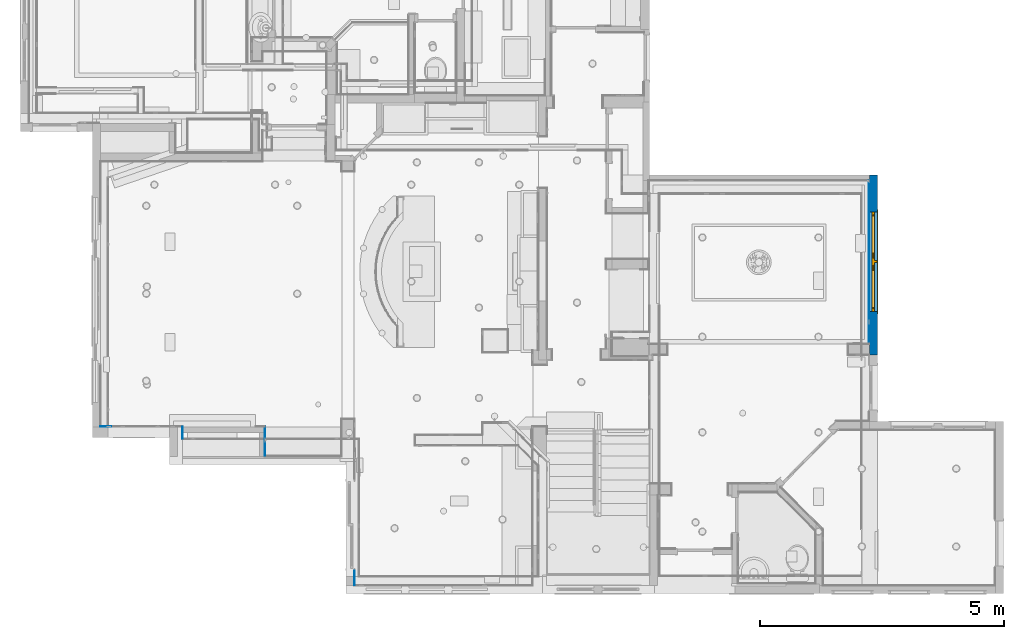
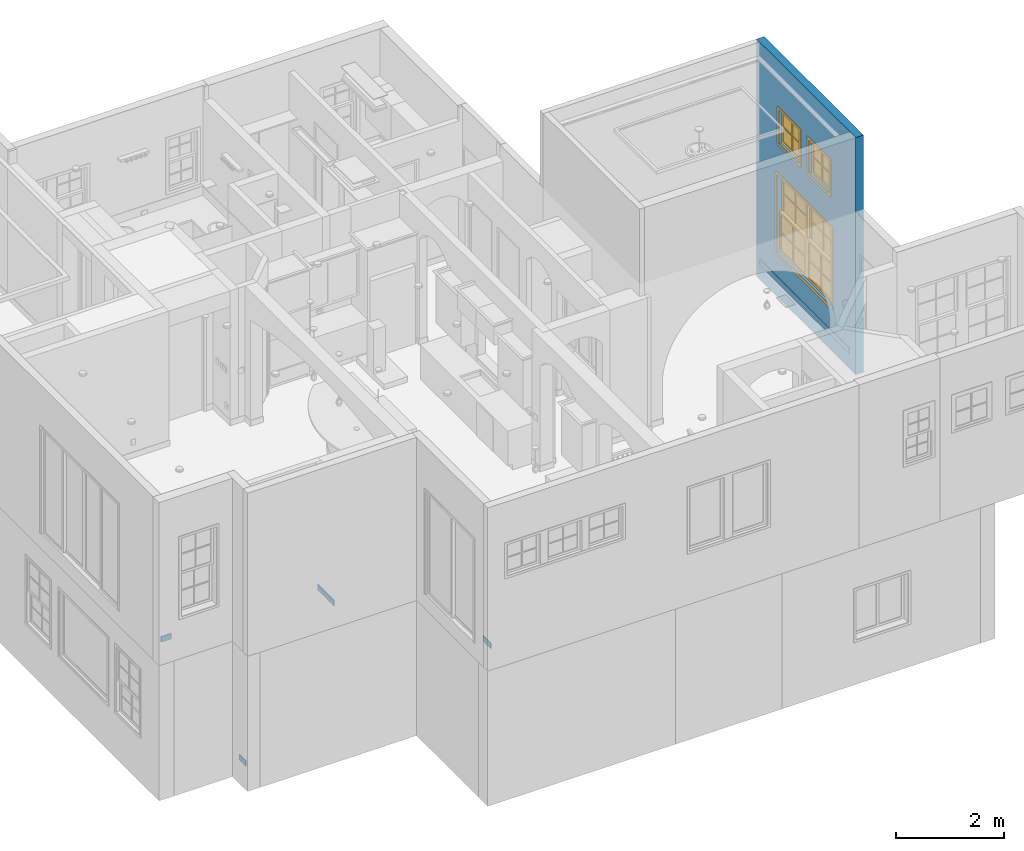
# One storey, part 16 of 81: 6 walls, 3 windows, 3 openings.
"""IFC2X3 building model written with IfcOpenShell, lengths in feet."""

from ifc_helpers import new_model, entity, si_unit, converted_unit, derived_unit, direction, frame, frame_2d, origin, origin_2d_with_axis, place, context, subcontext, project, spatial, polyline, rectangle, outline, extrude, clip, bounded_halfspace, source, transform, mapped, material, material_list, layer, layer_set, layer_usage, type_object, type_shapes, element, fill, save


model = new_model("IFC2X3")

# Units and contexts
model_context = context("Model", 3, precision=0.0001, world=origin(), true_north=direction((6.12303176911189e-17, 1.0)))
body_context = subcontext(model_context, "Body", "Model", "MODEL_VIEW")
ifc_project = project(units=[converted_unit("LENGTHUNIT", "FOOT", entity("IfcRatioMeasure", 0.3048), si_unit("LENGTHUNIT", "METRE"), dimensions=[1, 0, 0, 0, 0, 0, 0]), converted_unit("AREAUNIT", "SQUARE FOOT", entity("IfcRatioMeasure", 0.09290304), si_unit("AREAUNIT", "SQUARE_METRE"), dimensions=[2, 0, 0, 0, 0, 0, 0]), converted_unit("VOLUMEUNIT", "CUBIC FOOT", entity("IfcRatioMeasure", 0.028316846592), si_unit("VOLUMEUNIT", "CUBIC_METRE"), dimensions=[3, 0, 0, 0, 0, 0, 0]), converted_unit("PLANEANGLEUNIT", "DEGREE", entity("IfcRatioMeasure", 0.0174532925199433), si_unit("PLANEANGLEUNIT", "RADIAN"), dimensions=[0, 0, 0, 0, 0, 0, 0]), si_unit("MASSUNIT", "GRAM", prefix="KILO"), derived_unit("MASSDENSITYUNIT", [(si_unit("MASSUNIT", "GRAM", prefix="KILO"), 1), (si_unit("LENGTHUNIT", "METRE"), -3)]), derived_unit("MOMENTOFINERTIAUNIT", [(si_unit("LENGTHUNIT", "METRE"), 4)]), si_unit("TIMEUNIT", "SECOND"), si_unit("FREQUENCYUNIT", "HERTZ"), si_unit("THERMODYNAMICTEMPERATUREUNIT", "DEGREE_CELSIUS"), derived_unit("THERMALTRANSMITTANCEUNIT", [(si_unit("MASSUNIT", "GRAM", prefix="KILO"), 1), (si_unit("THERMODYNAMICTEMPERATUREUNIT", "KELVIN"), -1), (si_unit("TIMEUNIT", "SECOND"), -3)]), derived_unit("VOLUMETRICFLOWRATEUNIT", [(si_unit("LENGTHUNIT", "METRE"), 3), (si_unit("TIMEUNIT", "SECOND"), -1)]), si_unit("ELECTRICCURRENTUNIT", "AMPERE"), si_unit("ELECTRICVOLTAGEUNIT", "VOLT"), si_unit("POWERUNIT", "WATT"), si_unit("FORCEUNIT", "NEWTON"), si_unit("ILLUMINANCEUNIT", "LUX"), si_unit("LUMINOUSFLUXUNIT", "LUMEN"), si_unit("LUMINOUSINTENSITYUNIT", "CANDELA"), derived_unit("USERDEFINED", [(si_unit("MASSUNIT", "GRAM", prefix="KILO"), -1), (si_unit("LENGTHUNIT", "METRE"), -2), (si_unit("TIMEUNIT", "SECOND"), 3), (si_unit("LUMINOUSFLUXUNIT", "LUMEN"), 1)]), derived_unit("LINEARVELOCITYUNIT", [(si_unit("LENGTHUNIT", "METRE"), 1), (si_unit("TIMEUNIT", "SECOND"), -1)]), si_unit("PRESSUREUNIT", "PASCAL"), derived_unit("USERDEFINED", [(si_unit("LENGTHUNIT", "METRE"), -2), (si_unit("MASSUNIT", "GRAM", prefix="KILO"), 1), (si_unit("TIMEUNIT", "SECOND"), -2)]), derived_unit("LINEARFORCEUNIT", [(si_unit("MASSUNIT", "GRAM", prefix="KILO"), 1), (si_unit("LENGTHUNIT", "METRE"), 1), (si_unit("TIMEUNIT", "SECOND"), -2), (si_unit("LENGTHUNIT", "METRE"), -1)]), derived_unit("PLANARFORCEUNIT", [(si_unit("MASSUNIT", "GRAM", prefix="KILO"), 1), (si_unit("LENGTHUNIT", "METRE"), 1), (si_unit("TIMEUNIT", "SECOND"), -2), (si_unit("LENGTHUNIT", "METRE"), -2)])], contexts=[model_context])

# Site, building, storey
site_placement = place(None, origin())
site = spatial("IfcSite", under=ifc_project, at=site_placement, Name="Default", CompositionType="ELEMENT")
building_placement = place(site_placement, origin())
building = spatial("IfcBuilding", under=site, at=building_placement, CompositionType="ELEMENT")
storey_placement = place(building_placement, origin())
storey = spatial("IfcBuildingStorey", under=building, at=storey_placement, Name="First floor", CompositionType="ELEMENT", Elevation=0.0)

# Wall, openings, windows
ifc_material_1 = material(Name="Default New Material")
ifc_layer_1 = layer(ifc_material_1, 0.541666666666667)
ifc_layer_set_1 = layer_set([ifc_layer_1], Name="Basic Wall:Wall_6.5\"")
ifc_layer_usage_1 = layer_usage(ifc_layer_set_1, "AXIS2", "POSITIVE", -0.270833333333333)
wall_type_1 = type_object("IfcWallType", Name="Basic Wall:Wall_6.5\"", PredefinedType="STANDARD", material=ifc_layer_set_1)
wall_1_placement = place(storey_placement, frame((35.3958333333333, 16.041667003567, 9.54166666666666), z_axis=(0.0, 0.0, 1.0), x_axis=(0.0, 1.0, 0.0)))
wall_1 = element("IfcWallStandardCase", 1, at=wall_1_placement, inside=storey, type_object=wall_type_1, material=ifc_layer_usage_1, Name="Basic Wall:Wall_6.5\"", ObjectType="Basic Wall:Wall_6.5\"", context=body_context, shape_type="SweptSolid", body=[
    extrude(rectangle(XDim=12.083332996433, YDim=0.541666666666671, at=frame_2d((6.04166649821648, 1.66533453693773e-16), x_axis=(-1.0, 0.0))), origin(), (0.0, 0.0, 1.0), 17.625),
])
opening_1_placement = place(wall_1_placement, frame((9.58337356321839, 0.270833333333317, 3.29166666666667)))
opening_1 = element("IfcOpeningElement", 2, at=opening_1_placement, cuts=wall_1, Name="Window_13:6'-8\" X 5'-10\":1", ObjectType="Opening", context=body_context, shape_type="SweptSolid", body=[
    extrude(rectangle(XDim=5.83333333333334, YDim=6.66666666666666, at=frame_2d((2.91666666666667, 3.33333333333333), x_axis=(-1.0, 0.0))), frame((0.0, 0.0, 0.0), z_axis=(0.0, -1.0, 0.0), x_axis=(0.0, 0.0, 1.0)), (0.0, 0.0, 1.0), 0.541666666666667),
])
opening_2_placement = place(wall_1_placement, frame((6.83005215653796, -0.27083333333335, 11.5416666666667)))
opening_2 = element("IfcOpeningElement", 3, at=opening_2_placement, cuts=wall_1, Name="Window_8:2'-6\" X 2'-6\":1", ObjectType="Opening", context=body_context, shape_type="SweptSolid", body=[
    extrude(rectangle(XDim=2.5, YDim=2.5, at=frame_2d((1.25, 1.25), x_axis=(-1.0, 0.0))), frame((0.0, 0.0, 0.0), z_axis=(0.0, 1.0, 0.0), x_axis=(0.0, 0.0, 1.0)), (0.0, 0.0, 1.0), 0.541666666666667),
])
opening_3_placement = place(wall_1_placement, frame((3.16666666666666, -0.270833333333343, 11.5416666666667)))
opening_3 = element("IfcOpeningElement", 4, at=opening_3_placement, cuts=wall_1, Name="Window_8:2'-6\" X 2'-6\":1", ObjectType="Opening", context=body_context, shape_type="SweptSolid", body=[
    extrude(rectangle(XDim=2.5, YDim=2.5, at=frame_2d((1.25, 1.25), x_axis=(-1.0, 0.0))), frame((0.0, 0.0, 0.0), z_axis=(0.0, 1.0, 0.0), x_axis=(0.0, 0.0, 1.0)), (0.0, 0.0, 1.0), 0.541666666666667),
])
ifc_material_2 = material(Name="Glass")
ifc_material_list_1 = material_list([ifc_material_2, ifc_material_1])
ifc_material_3 = material(Name="Sash")
ifc_material_list_2 = material_list([ifc_material_1, ifc_material_1, ifc_material_3, ifc_material_2])
window_style_1 = type_object("IfcWindowStyle", Name="Window_13:6'-8\" X 5'-10\"", ConstructionType="NOTDEFINED", OperationType="NOTDEFINED", ParameterTakesPrecedence=False, Sizeable=False, material=ifc_material_list_2)
shared_shape_1 = source(origin(), body_context, "Body", "SweptSolid", [
    extrude(rectangle(XDim=1.44791666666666, YDim=0.0435871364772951, at=origin_2d_with_axis()), frame((5.77604166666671, 0.417626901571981, 4.35937499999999)), (0.0, 0.0, 1.0), 1.30729166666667),
    extrude(rectangle(XDim=1.44791666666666, YDim=0.0435871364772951, at=frame_2d((-1.11022302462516e-16, 0.0), x_axis=(1.0, 0.0))), frame((0.890625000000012, 0.417626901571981, 4.359375)), (0.0, 0.0, 1.0), 1.30729166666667),
    extrude(rectangle(XDim=1.44791666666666, YDim=0.0435871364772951, at=frame_2d((1.11022302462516e-16, 0.0), x_axis=(1.0, 0.0))), frame((2.38020833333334, 0.417626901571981, 4.35937499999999)), (0.0, 0.0, 1.0), 1.30729166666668),
    extrude(rectangle(XDim=1.44791666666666, YDim=0.0435871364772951, at=origin_2d_with_axis()), frame((4.28645833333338, 0.417626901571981, 4.35937499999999)), (0.0, 0.0, 1.0), 1.30729166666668),
    extrude(rectangle(XDim=1.44791666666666, YDim=0.0435871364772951, at=origin_2d_with_axis()), frame((5.7760416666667, 0.417626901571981, 3.01041666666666)), (0.0, 0.0, 1.0), 1.30729166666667),
    extrude(rectangle(XDim=1.44791666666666, YDim=0.0435871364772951, at=frame_2d((1.11022302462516e-16, 0.0), x_axis=(1.0, 0.0))), frame((0.89062500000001, 0.417626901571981, 3.01041666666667)), (0.0, 0.0, 1.0), 1.30729166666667),
    extrude(rectangle(XDim=1.44791666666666, YDim=0.0435871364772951, at=frame_2d((-1.11022302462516e-16, 0.0), x_axis=(1.0, 0.0))), frame((2.38020833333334, 0.417626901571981, 3.01041666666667)), (0.0, 0.0, 1.0), 1.30729166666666),
    extrude(rectangle(XDim=1.44791666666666, YDim=0.0435871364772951, at=frame_2d((-1.11022302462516e-16, 0.0), x_axis=(1.0, 0.0))), frame((4.28645833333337, 0.417626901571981, 3.01041666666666)), (0.0, 0.0, 1.0), 1.30729166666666),
    extrude(outline(polyline([(-1.49479166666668, -1.63541666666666), (1.49479166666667, -1.63541666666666), (1.49479166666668, 1.63541666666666), (-1.49479166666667, 1.63541666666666), (-1.49479166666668, -1.63541666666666)]), holes=[polyline([(-0.020833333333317, -0.0208333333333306), (-0.0208333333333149, -1.46874999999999), (-1.32812499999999, -1.46874999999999), (-1.32812499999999, -0.0208333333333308), (-0.020833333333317, -0.0208333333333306)]), polyline([(-1.32812499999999, 0.0208333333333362), (-1.32812499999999, 1.46875), (-0.0208333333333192, 1.46875), (-0.0208333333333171, 0.0208333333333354), (-1.32812499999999, 0.0208333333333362)]), polyline([(1.32812500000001, 0.0208333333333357), (0.020833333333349, 0.0208333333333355), (0.0208333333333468, 1.46875), (1.32812500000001, 1.46875), (1.32812500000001, 0.0208333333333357)]), polyline([(0.0208333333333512, -1.46874999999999), (0.0208333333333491, -0.0208333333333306), (1.32812500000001, -0.0208333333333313), (1.32812500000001, -1.46874999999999), (0.0208333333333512, -1.46874999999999)])]), frame((5.03125000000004, 0.5, 4.33854166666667), z_axis=(0.0, -1.0, 0.0), x_axis=(0.0, 0.0, -1.0)), (0.0, 0.0, 1.0), 0.166666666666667),
    extrude(outline(polyline([(-1.63541666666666, -1.49479166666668), (1.63541666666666, -1.49479166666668), (1.63541666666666, 1.49479166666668), (-1.63541666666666, 1.49479166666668), (-1.63541666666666, -1.49479166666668)]), holes=[polyline([(0.0208333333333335, -1.32812499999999), (0.0208333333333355, -0.0208333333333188), (1.46875, -0.0208333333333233), (1.46875, -1.32812499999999), (0.0208333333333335, -1.32812499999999)]), polyline([(0.0208333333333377, 1.32812500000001), (1.46875, 1.32812500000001), (1.46875, 0.0208333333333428), (0.0208333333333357, 0.0208333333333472), (0.0208333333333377, 1.32812500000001)]), polyline([(-1.46874999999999, 0.0208333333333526), (-1.46874999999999, 1.32812500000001), (-0.0208333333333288, 1.32812500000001), (-0.0208333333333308, 0.0208333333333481), (-1.46874999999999, 0.0208333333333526)]), polyline([(-0.020833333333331, -0.0208333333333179), (-0.020833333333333, -1.32812499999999), (-1.46875, -1.32812499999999), (-1.46874999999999, -0.0208333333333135), (-0.020833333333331, -0.0208333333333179)])]), frame((1.63541666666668, 0.5, 4.33854166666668), z_axis=(0.0, -1.0, 0.0), x_axis=(-1.0, 0.0, 0.0)), (0.0, 0.0, 1.0), 0.166666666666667),
    extrude(rectangle(XDim=1.44791666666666, YDim=0.0416666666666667, at=origin_2d_with_axis()), frame((5.7760416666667, 0.25, 1.515625), z_axis=(0.0, 0.0, 1.0), x_axis=(-1.0, 0.0, 0.0)), (0.0, 0.0, 1.0), 1.32812499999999),
    extrude(rectangle(XDim=1.44791666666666, YDim=0.0416666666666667, at=frame_2d((-1.11022302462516e-16, 0.0), x_axis=(1.0, 0.0))), frame((0.890625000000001, 0.25, 0.166666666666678), z_axis=(0.0, 0.0, 1.0), x_axis=(-1.0, 0.0, 0.0)), (0.0, 0.0, 1.0), 1.30729166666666),
    extrude(rectangle(XDim=1.44791666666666, YDim=0.0416666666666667, at=origin_2d_with_axis()), frame((2.38020833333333, 0.25, 0.166666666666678), z_axis=(0.0, 0.0, 1.0), x_axis=(-1.0, 0.0, 0.0)), (0.0, 0.0, 1.0), 1.30729166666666),
    extrude(rectangle(XDim=1.44791666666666, YDim=0.0416666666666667, at=origin_2d_with_axis()), frame((5.77604166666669, 0.25, 0.16666666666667), z_axis=(0.0, 0.0, 1.0), x_axis=(-1.0, 0.0, 0.0)), (0.0, 0.0, 1.0), 1.30729166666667),
    extrude(rectangle(XDim=1.44791666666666, YDim=0.0416666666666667, at=origin_2d_with_axis()), frame((4.28645833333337, 0.25, 0.166666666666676), z_axis=(0.0, 0.0, 1.0), x_axis=(-1.0, 0.0, 0.0)), (0.0, 0.0, 1.0), 1.30729166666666),
    extrude(rectangle(XDim=1.44791666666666, YDim=0.0416666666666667, at=frame_2d((1.11022302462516e-16, 0.0), x_axis=(1.0, 0.0))), frame((0.890625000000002, 0.25, 1.51562500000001), z_axis=(0.0, 0.0, 1.0), x_axis=(-1.0, 0.0, 0.0)), (0.0, 0.0, 1.0), 1.32812499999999),
    extrude(rectangle(XDim=1.44791666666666, YDim=0.0416666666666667, at=origin_2d_with_axis()), frame((2.38020833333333, 0.25, 1.51562500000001), z_axis=(0.0, 0.0, 1.0), x_axis=(-1.0, 0.0, 0.0)), (0.0, 0.0, 1.0), 1.328125),
    extrude(rectangle(XDim=1.44791666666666, YDim=0.0416666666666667, at=origin_2d_with_axis()), frame((4.28645833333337, 0.25, 1.515625), z_axis=(0.0, 0.0, 1.0), x_axis=(-1.0, 0.0, 0.0)), (0.0, 0.0, 1.0), 1.328125),
    extrude(outline(polyline([(-1.50520833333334, -1.63541666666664), (1.50520833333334, -1.63541666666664), (1.50520833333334, 1.63541666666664), (-1.50520833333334, 1.63541666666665), (-1.50520833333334, -1.63541666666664)]), holes=[polyline([(-1.33854166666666, -0.0208333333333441), (-0.031249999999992, -0.0208333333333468), (-0.031249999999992, -1.46875000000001), (-1.33854166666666, -1.46875000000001), (-1.33854166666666, -0.0208333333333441)]), polyline([(-0.031249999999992, 1.46874999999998), (-0.031249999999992, 0.0208333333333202), (-1.33854166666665, 0.0208333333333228), (-1.33854166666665, 1.46874999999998), (-0.031249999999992, 1.46874999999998)]), polyline([(1.33854166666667, -0.0208333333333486), (1.33854166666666, -1.46875000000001), (0.0104166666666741, -1.46875000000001), (0.0104166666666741, -0.0208333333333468), (1.33854166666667, -0.0208333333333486)]), polyline([(0.0104166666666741, 0.0208333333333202), (0.0104166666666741, 1.46874999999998), (1.33854166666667, 1.46874999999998), (1.33854166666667, 0.0208333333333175), (0.0104166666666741, 0.0208333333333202)])]), frame((5.03125000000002, 0.333333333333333, 1.50520833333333), z_axis=(0.0, -1.0, 0.0), x_axis=(0.0, 0.0, 1.0)), (0.0, 0.0, 1.0), 0.166666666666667),
    extrude(outline(polyline([(-1.63541666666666, -1.50520833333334), (1.63541666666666, -1.50520833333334), (1.63541666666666, 1.50520833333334), (-1.63541666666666, 1.50520833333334), (-1.63541666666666, -1.50520833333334)]), holes=[polyline([(0.0208333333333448, 1.33854166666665), (1.46875000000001, 1.33854166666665), (1.46875000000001, 0.0312499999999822), (0.0208333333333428, 0.0312499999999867), (0.0208333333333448, 1.33854166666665)]), polyline([(0.0208333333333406, -1.33854166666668), (0.0208333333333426, -0.0104166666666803), (1.46875000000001, -0.0104166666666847), (1.46875000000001, -1.33854166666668), (0.0208333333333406, -1.33854166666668)]), polyline([(-1.46874999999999, 0.031249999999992), (-1.46874999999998, 1.33854166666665), (-0.0208333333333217, 1.33854166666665), (-0.0208333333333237, 0.0312499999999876), (-1.46874999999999, 0.031249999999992)]), polyline([(-0.0208333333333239, -0.0104166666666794), (-0.0208333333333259, -1.33854166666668), (-1.46874999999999, -1.33854166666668), (-1.46874999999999, -0.010416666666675), (-0.0208333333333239, -0.0104166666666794)])]), frame((1.63541666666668, 0.333333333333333, 1.50520833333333), z_axis=(0.0, -1.0, 0.0), x_axis=(-1.0, 0.0, 0.0)), (0.0, 0.0, 1.0), 0.166666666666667),
    extrude(outline(polyline([(-3.49999999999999, -3.08333333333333), (3.49999999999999, -3.08333333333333), (3.49999999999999, 3.08333333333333), (-3.49999999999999, 3.08333333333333), (-3.49999999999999, -3.08333333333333)]), holes=[polyline([(-3.33333333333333, -2.91666666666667), (-3.33333333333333, 2.91666666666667), (3.33333333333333, 2.91666666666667), (3.33333333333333, -2.91666666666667), (-3.33333333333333, -2.91666666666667)])]), frame((3.33333333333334, 0.0, 2.91666666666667), z_axis=(0.0, -1.0, 0.0), x_axis=(1.0, 0.0, 0.0)), (0.0, 0.0, 1.0), 0.0416666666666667),
    extrude(outline(polyline([(-3.5, -3.08333333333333), (3.5, -3.08333333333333), (3.5, 3.08333333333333), (-3.5, 3.08333333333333), (-3.5, -3.08333333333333)]), holes=[polyline([(-3.33333333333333, -2.91666666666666), (-3.33333333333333, 2.91666666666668), (3.33333333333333, 2.91666666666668), (3.33333333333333, -2.91666666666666), (-3.33333333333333, -2.91666666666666)])]), frame((3.33333333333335, 0.583333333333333, 2.91666666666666), z_axis=(0.0, -1.0, 0.0), x_axis=(1.0, 0.0, 0.0)), (0.0, 0.0, 1.0), 0.0416666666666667),
    extrude(rectangle(XDim=0.125000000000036, YDim=0.333333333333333, at=origin_2d_with_axis()), frame((3.33333333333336, 0.333333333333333, 0.0), z_axis=(0.0, 0.0, 1.0), x_axis=(-1.0, 0.0, 0.0)), (0.0, 0.0, 1.0), 5.83333333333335),
])
type_shapes(window_style_1, [shared_shape_1])
window_1_placement = place(opening_1_placement, frame((0.0, 0.0, 0.0), z_axis=(0.0, 0.0, 1.0), x_axis=(-1.0, 0.0, 0.0)))
window_1 = element("IfcWindow", 5, at=window_1_placement, inside=storey, type_object=window_style_1, material=ifc_material_list_1, Name="Window_13:6'-8\" X 5'-10\"", ObjectType="Window_13:6'-8\" X 5'-10\"", OverallHeight=5.83333333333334, OverallWidth=6.66666666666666, context=body_context, shape_type="MappedRepresentation", body=[
    mapped(shared_shape_1, transform((0.0, 0.0, 0.0), scale=1.0)),
])
fill(opening_1, window_1)
ifc_material_list_3 = material_list([ifc_material_2, ifc_material_1])
ifc_material_list_4 = material_list([ifc_material_2, ifc_material_1, ifc_material_1])
window_style_2 = type_object("IfcWindowStyle", Name="Window_8:2'-6\" X 2'-6\"", ConstructionType="NOTDEFINED", OperationType="NOTDEFINED", ParameterTakesPrecedence=False, Sizeable=False, material=ifc_material_list_4)
shared_shape_2 = source(origin(), body_context, "Body", "SweptSolid", [
    extrude(rectangle(XDim=0.0416666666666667, YDim=1.0625, at=origin_2d_with_axis()), frame((1.80208333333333, 0.291666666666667, 1.27083333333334), z_axis=(0.0, 0.0, 1.0), x_axis=(0.0, 1.0, 0.0)), (0.0, 0.0, 1.0), 1.0625),
    extrude(rectangle(XDim=0.0416666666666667, YDim=1.0625, at=origin_2d_with_axis()), frame((1.80208333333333, 0.291666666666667, 0.166666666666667), z_axis=(0.0, 0.0, 1.0), x_axis=(0.0, 1.0, 0.0)), (0.0, 0.0, 1.0), 1.06250000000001),
    extrude(rectangle(XDim=0.0416666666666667, YDim=1.0625, at=origin_2d_with_axis()), frame((0.697916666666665, 0.291666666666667, 0.166666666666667), z_axis=(0.0, 0.0, 1.0), x_axis=(0.0, 1.0, 0.0)), (0.0, 0.0, 1.0), 1.06250000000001),
    extrude(rectangle(XDim=0.0416666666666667, YDim=1.0625, at=origin_2d_with_axis()), frame((0.697916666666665, 0.291666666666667, 1.27083333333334), z_axis=(0.0, 0.0, 1.0), x_axis=(0.0, 1.0, 0.0)), (0.0, 0.0, 1.0), 1.0625),
    extrude(outline(polyline([(-1.25, -1.25000000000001), (1.25, -1.25000000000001), (1.25, 1.25000000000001), (-1.25, 1.25000000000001), (-1.25, -1.25000000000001)]), holes=[polyline([(0.02083333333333, 1.08333333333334), (1.08333333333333, 1.08333333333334), (1.08333333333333, 0.0208333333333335), (0.0208333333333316, 0.0208333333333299), (0.02083333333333, 1.08333333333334)]), polyline([(-0.0208333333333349, 0.0208333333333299), (-1.08333333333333, 0.0208333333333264), (-1.08333333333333, 1.08333333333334), (-0.0208333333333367, 1.08333333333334), (-0.0208333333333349, 0.0208333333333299)]), polyline([(0.0208333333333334, -1.08333333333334), (0.0208333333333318, -0.020833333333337), (1.08333333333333, -0.0208333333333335), (1.08333333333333, -1.08333333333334), (0.0208333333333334, -1.08333333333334)]), polyline([(-1.08333333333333, -0.0208333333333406), (-0.0208333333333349, -0.020833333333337), (-0.0208333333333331, -1.08333333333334), (-1.08333333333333, -1.08333333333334), (-1.08333333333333, -0.0208333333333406)])]), frame((1.25, 0.208333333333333, 1.25000000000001), z_axis=(0.0, 1.0, 0.0), x_axis=(1.0, 0.0, 0.0)), (0.0, 0.0, 1.0), 0.166666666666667),
    extrude(outline(polyline([(-1.41666666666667, -1.41666666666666), (1.41666666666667, -1.41666666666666), (1.41666666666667, 1.41666666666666), (-1.41666666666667, 1.41666666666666), (-1.41666666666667, -1.41666666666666)]), holes=[polyline([(-1.25, -1.25), (-1.25, 1.25), (1.25, 1.25), (1.25, -1.25), (-1.25, -1.25)])]), frame((1.25, 0.541666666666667, 1.25), z_axis=(0.0, 1.0, 0.0), x_axis=(1.0, 0.0, 0.0)), (0.0, 0.0, 1.0), 0.0416666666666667),
    extrude(outline(polyline([(-1.41666666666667, -1.41666666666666), (1.41666666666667, -1.41666666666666), (1.41666666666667, 1.41666666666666), (-1.41666666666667, 1.41666666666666), (-1.41666666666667, -1.41666666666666)]), holes=[polyline([(1.25, 1.25), (1.25, -1.25), (-1.25, -1.25), (-1.25, 1.25), (1.25, 1.25)])]), frame((1.25, -0.0416666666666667, 1.25), z_axis=(0.0, 1.0, 0.0), x_axis=(1.0, 0.0, 0.0)), (0.0, 0.0, 1.0), 0.0416666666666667),
])
type_shapes(window_style_2, [shared_shape_2])
window_2_placement = place(opening_2_placement, origin())
window_2 = element("IfcWindow", 6, at=window_2_placement, inside=storey, type_object=window_style_2, material=ifc_material_list_3, Name="Window_8:2'-6\" X 2'-6\"", ObjectType="Window_8:2'-6\" X 2'-6\"", OverallHeight=2.5, OverallWidth=2.5, context=body_context, shape_type="MappedRepresentation", body=[
    mapped(shared_shape_2, transform((0.0, 0.0, 0.0), scale=1.0)),
])
fill(opening_2, window_2)
ifc_material_list_5 = material_list([ifc_material_2, ifc_material_1])
window_3_placement = place(opening_3_placement, origin())
window_3 = element("IfcWindow", 7, at=window_3_placement, inside=storey, type_object=window_style_2, material=ifc_material_list_5, Name="Window_8:2'-6\" X 2'-6\"", ObjectType="Window_8:2'-6\" X 2'-6\"", OverallHeight=2.5, OverallWidth=2.5, context=body_context, shape_type="MappedRepresentation", body=[
    mapped(shared_shape_2, transform((0.0, 0.0, 0.0), scale=1.0)),
])
fill(opening_3, window_3)

# Walls
ifc_layer_2 = layer(ifc_material_1, 0.0416666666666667)
ifc_layer_set_2 = layer_set([ifc_layer_2], Name="Basic Wall:Wall Border_T1")
ifc_layer_usage_2 = layer_usage(ifc_layer_set_2, "AXIS2", "NEGATIVE", 0.0208333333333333)
wall_type_2 = type_object("IfcWallType", Name="Basic Wall:Wall Border_T1", PredefinedType="STANDARD", material=ifc_layer_set_2)
wall_2_placement = place(storey_placement, frame((-10.979166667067, 10.4166666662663, 0.0), z_axis=(0.0, 0.0, 1.0), x_axis=(0.0, 1.0, 0.0)))
element("IfcWallStandardCase", 8, at=wall_2_placement, inside=storey, type_object=wall_type_2, material=ifc_layer_usage_2, Name="Basic Wall:Wall Border_T1", ObjectType="Basic Wall:Wall Border_T1", context=body_context, shape_type="Clipping", body=[
    clip(extrude(rectangle(XDim=0.791666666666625, YDim=0.0416666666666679, at=frame_2d((0.395833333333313, -4.5102810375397e-17), x_axis=(-1.0, 0.0))), origin(), (0.0, 0.0, 1.0), 0.416666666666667), bounded_halfspace(frame((0.791666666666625, -0.0208333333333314, 0.416666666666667), z_axis=(-1.0, 0.0, 0.0), x_axis=(0.0, -1.0, 0.0)), True, frame((0.791666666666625, -0.0208333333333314, 0.416666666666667), z_axis=(-1.0, 0.0, 0.0), x_axis=(0.0, -1.0, 0.0)), polyline([(0.0, 0.0), (-0.0416666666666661, 0.0), (-0.0416666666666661, -0.416666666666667), (0.0, -0.416666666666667), (0.0, 0.0)]))),
])
ifc_layer_usage_3 = layer_usage(ifc_layer_set_2, "AXIS2", "NEGATIVE", 0.0208333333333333)
wall_3_placement = place(storey_placement, frame((0.562500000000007, 1.54166666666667, 10.6666666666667), z_axis=(0.0, 0.0, 1.0), x_axis=(0.0, -1.0, 0.0)))
element("IfcWallStandardCase", 9, at=wall_3_placement, inside=storey, type_object=wall_type_2, material=ifc_layer_usage_3, Name="Basic Wall:Wall Border_T1", ObjectType="Basic Wall:Wall Border_T1", context=body_context, shape_type="SweptSolid", body=[
    extrude(rectangle(XDim=0.95833333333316, YDim=0.0416666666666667, at=frame_2d((0.47916666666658, -1.73472347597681e-17), x_axis=(-1.0, 0.0))), origin(), (0.0, 0.0, 1.0), 0.416666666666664),
])
ifc_layer_usage_4 = layer_usage(ifc_layer_set_2, "AXIS2", "POSITIVE", -0.0208333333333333)
wall_4_placement = place(storey_placement, frame((35.1041666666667, 27.7083333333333, 10.6666666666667), z_axis=(0.0, 0.0, 1.0), x_axis=(0.0, -1.0, 0.0)))
element("IfcWallStandardCase", 10, at=wall_4_placement, inside=storey, type_object=wall_type_2, material=ifc_layer_usage_4, Name="Basic Wall:Wall Border_T1", ObjectType="Basic Wall:Wall Border_T1", context=body_context, shape_type="SweptSolid", body=[
    extrude(rectangle(XDim=10.9166663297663, YDim=0.0416666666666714, at=frame_2d((5.45833316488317, 0.0), x_axis=(-1.0, 0.0))), origin(), (0.0, 0.0, 1.0), 0.416666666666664),
])
ifc_layer_usage_5 = layer_usage(ifc_layer_set_2, "AXIS2", "POSITIVE", -0.0208333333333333)
wall_5_placement = place(storey_placement, frame((-5.43749999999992, 9.25000000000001, 10.6666666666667), z_axis=(0.0, 0.0, 1.0), x_axis=(0.0, 1.0, 0.0)))
element("IfcWallStandardCase", 11, at=wall_5_placement, inside=storey, type_object=wall_type_2, material=ifc_layer_usage_5, Name="Basic Wall:Wall Border_T1", ObjectType="Basic Wall:Wall Border_T1", context=body_context, shape_type="SweptSolid", body=[
    extrude(rectangle(XDim=1.99999999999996, YDim=0.0416666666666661, at=frame_2d((0.999999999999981, 3.81639164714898e-17), x_axis=(-1.0, 0.0))), origin(), (0.0, 0.0, 1.0), 0.416666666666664),
])
ifc_layer_usage_6 = layer_usage(ifc_layer_set_2, "AXIS2", "POSITIVE", -0.0208333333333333)
wall_6_placement = place(storey_placement, frame((-15.7708333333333, 11.2291666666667, 10.6666666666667), z_axis=(0.0, 0.0, 1.0), x_axis=(-1.0, 0.0, 0.0)))
element("IfcWallStandardCase", 12, at=wall_6_placement, inside=storey, type_object=wall_type_2, material=ifc_layer_usage_6, Name="Basic Wall:Wall Border_T1", ObjectType="Basic Wall:Wall Border_T1", context=body_context, shape_type="SweptSolid", body=[
    extrude(rectangle(XDim=0.729166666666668, YDim=0.0416666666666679, at=frame_2d((0.364583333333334, 0.0), x_axis=(-1.0, 0.0))), origin(), (0.0, 0.0, 1.0), 0.416666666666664),
])

save(model, "model.ifc")
